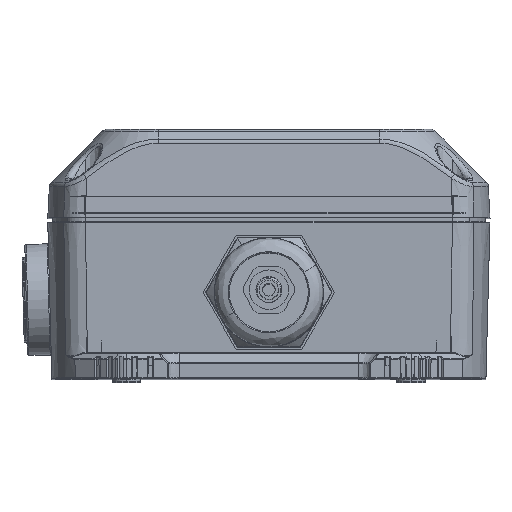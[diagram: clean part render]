
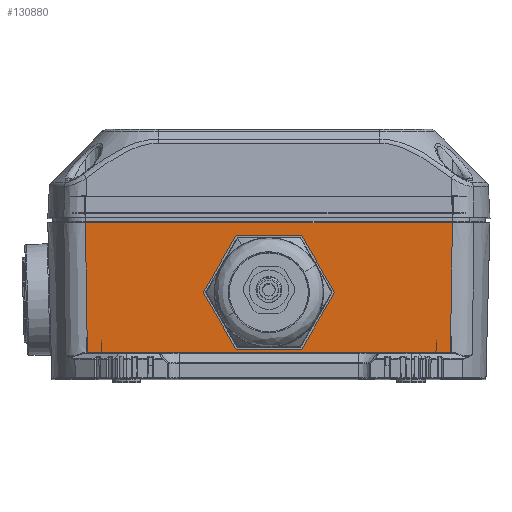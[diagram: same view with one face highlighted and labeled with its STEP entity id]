
A CAD part, top view. The second image highlights one B-rep face of the part: STEP entity #130880.
In plain terms, the highlighted planar face has unit normal (0, -0.026, 1).
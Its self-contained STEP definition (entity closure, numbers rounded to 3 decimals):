
#707 = CARTESIAN_POINT ( 'NONE',  ( -10.392, 9.25, 108.446 ) ) ;
#1425 = CARTESIAN_POINT ( 'NONE',  ( -57.745, 26.37, 108.894 ) ) ;
#3912 = EDGE_CURVE ( 'NONE', #118324, #89996, #95906, .T. ) ;
#4133 = CARTESIAN_POINT ( 'NONE',  ( -57.473, 8.308, 108.421 ) ) ;
#8199 = ORIENTED_EDGE ( 'NONE', *, *, #66824, .T. ) ;
#9946 = CARTESIAN_POINT ( 'NONE',  ( -66.645, 49.295, 109.495 ) ) ;
#11708 = DIRECTION ( 'NONE',  ( 0., -1., -0.026 ) ) ;
#16843 = CARTESIAN_POINT ( 'NONE',  ( 58.085, 49.295, 109.495 ) ) ;
#17525 = DIRECTION ( 'NONE',  ( 1., 0., 0. ) ) ;
#21920 = CARTESIAN_POINT ( 'NONE',  ( -66.645, 49.5, 109.5 ) ) ;
#22009 = VECTOR ( 'NONE', #103792, 1000. ) ;
#22887 = CARTESIAN_POINT ( 'NONE',  ( 57.473, 8.308, 108.421 ) ) ;
#23704 = CARTESIAN_POINT ( 'NONE',  ( -57.473, 8.308, 108.421 ) ) ;
#26305 = CARTESIAN_POINT ( 'NONE',  ( 10.392, 45.25, 109.389 ) ) ;
#26775 = DIRECTION ( 'NONE',  ( 0.5, -0.866, -0.023 ) ) ;
#27469 = EDGE_CURVE ( 'NONE', #28248, #31781, #112821, .T. ) ;
#28038 = CARTESIAN_POINT ( 'NONE',  ( 57.939, 39.359, 109.234 ) ) ;
#28248 = VERTEX_POINT ( 'NONE', #94555 ) ;
#28671 = EDGE_LOOP ( 'NONE', ( #42906, #8199, #89855, #129674, #116026, #50917 ) ) ;
#29660 = LINE ( 'NONE', #707, #50608 ) ;
#31781 = VERTEX_POINT ( 'NONE', #125842 ) ;
#35646 = VECTOR ( 'NONE', #74594, 1000. ) ;
#37838 = CARTESIAN_POINT ( 'NONE',  ( 57.757, 27.132, 108.914 ) ) ;
#38109 = VERTEX_POINT ( 'NONE', #72278 ) ;
#38536 = ORIENTED_EDGE ( 'NONE', *, *, #127388, .T. ) ;
#42906 = ORIENTED_EDGE ( 'NONE', *, *, #76300, .T. ) ;
#46150 = CARTESIAN_POINT ( 'NONE',  ( -58.045, 46.543, 109.423 ) ) ;
#46624 = AXIS2_PLACEMENT_3D ( 'NONE', #21920, #77450, #11708 ) ;
#47001 = VERTEX_POINT ( 'NONE', #110212 ) ;
#47885 = EDGE_CURVE ( 'NONE', #118324, #31781, #77571, .T. ) ;
#50608 = VECTOR ( 'NONE', #78539, 1000. ) ;
#50748 = EDGE_CURVE ( 'NONE', #108818, #103939, #29660, .T. ) ;
#50917 = ORIENTED_EDGE ( 'NONE', *, *, #113597, .T. ) ;
#51580 = CARTESIAN_POINT ( 'NONE',  ( -66.645, 8.308, 108.421 ) ) ;
#54050 = VECTOR ( 'NONE', #122054, 1000. ) ;
#57583 = EDGE_CURVE ( 'NONE', #47001, #108818, #93322, .T. ) ;
#65269 = CARTESIAN_POINT ( 'NONE',  ( 20.785, 27.25, 108.917 ) ) ;
#65740 = DIRECTION ( 'NONE',  ( -0.5, -0.866, -0.023 ) ) ;
#66049 = VERTEX_POINT ( 'NONE', #133342 ) ;
#66824 = EDGE_CURVE ( 'NONE', #66049, #141511, #135163, .T. ) ;
#67540 = CARTESIAN_POINT ( 'NONE',  ( -57.488, 9.302, 108.447 ) ) ;
#71650 = EDGE_LOOP ( 'NONE', ( #137229, #75157, #129140, #38536 ) ) ;
#72278 = CARTESIAN_POINT ( 'NONE',  ( -10.392, 45.25, 109.389 ) ) ;
#74594 = DIRECTION ( 'NONE',  ( 0.5, 0.866, 0.023 ) ) ;
#75157 = ORIENTED_EDGE ( 'NONE', *, *, #47885, .T. ) ;
#75716 = DIRECTION ( 'NONE',  ( -1., 0., 0. ) ) ;
#76300 = EDGE_CURVE ( 'NONE', #38109, #66049, #125231, .T. ) ;
#77450 = DIRECTION ( 'NONE',  ( 0., -0.026, 1. ) ) ;
#77571 = LINE ( 'NONE', #51580, #87948 ) ;
#78539 = DIRECTION ( 'NONE',  ( -0.5, 0.866, 0.023 ) ) ;
#79210 = CARTESIAN_POINT ( 'NONE',  ( -57.934, 39.038, 109.226 ) ) ;
#86970 = CARTESIAN_POINT ( 'NONE',  ( -66.645, 45.25, 109.389 ) ) ;
#87666 = LINE ( 'NONE', #9946, #96359 ) ;
#87948 = VECTOR ( 'NONE', #17525, 1000. ) ;
#89855 = ORIENTED_EDGE ( 'NONE', *, *, #108412, .T. ) ;
#89996 = VERTEX_POINT ( 'NONE', #121186 ) ;
#93156 = CARTESIAN_POINT ( 'NONE',  ( 58.05, 46.87, 109.431 ) ) ;
#93231 = VECTOR ( 'NONE', #65740, 1000. ) ;
#93322 = LINE ( 'NONE', #115506, #22009 ) ;
#94555 = CARTESIAN_POINT ( 'NONE',  ( 58.085, 49.295, 109.495 ) ) ;
#95906 =( BOUNDED_CURVE ( )  B_SPLINE_CURVE ( 3, ( #23704, #67540, #112289, #1425, #79210, #46150, #102522 ),
 .UNSPECIFIED., .F., .F. ) 
 B_SPLINE_CURVE_WITH_KNOTS ( ( 4, 1, 1, 1, 4 ),
 ( 0.007, 0.079, 0.453, 0.796, 0.995 ),
 .UNSPECIFIED. ) 
 CURVE ( )  GEOMETRIC_REPRESENTATION_ITEM ( )  RATIONAL_B_SPLINE_CURVE ( ( 1.072, 1.072, 1.072, 1.072, 1.072, 1.072, 1.072 ) ) 
 REPRESENTATION_ITEM ( '' )  );
#96359 = VECTOR ( 'NONE', #75716, 1000. ) ;
#99332 = CARTESIAN_POINT ( 'NONE',  ( -20.785, 27.25, 108.917 ) ) ;
#102522 = CARTESIAN_POINT ( 'NONE',  ( -58.085, 49.295, 109.495 ) ) ;
#103792 = DIRECTION ( 'NONE',  ( -1., 0., 0. ) ) ;
#103939 = VERTEX_POINT ( 'NONE', #134073 ) ;
#105896 = CARTESIAN_POINT ( 'NONE',  ( 57.588, 15.894, 108.62 ) ) ;
#107022 = FACE_OUTER_BOUND ( 'NONE', #71650, .T. ) ;
#107418 = CARTESIAN_POINT ( 'NONE',  ( -10.392, 9.25, 108.446 ) ) ;
#108412 = EDGE_CURVE ( 'NONE', #141511, #47001, #133331, .T. ) ;
#108722 = LINE ( 'NONE', #99332, #35646 ) ;
#108818 = VERTEX_POINT ( 'NONE', #107418 ) ;
#110212 = CARTESIAN_POINT ( 'NONE',  ( 10.392, 9.25, 108.446 ) ) ;
#112289 = CARTESIAN_POINT ( 'NONE',  ( -57.581, 15.46, 108.609 ) ) ;
#112821 =( BOUNDED_CURVE ( )  B_SPLINE_CURVE ( 3, ( #16843, #93156, #28038, #37838, #105896, #115632, #22887 ),
 .UNSPECIFIED., .F., .F. ) 
 B_SPLINE_CURVE_WITH_KNOTS ( ( 4, 1, 1, 1, 4 ),
 ( 0.005, 0.18, 0.548, 0.889, 0.993 ),
 .UNSPECIFIED. ) 
 CURVE ( )  GEOMETRIC_REPRESENTATION_ITEM ( )  RATIONAL_B_SPLINE_CURVE ( ( 1.072, 1.072, 1.072, 1.072, 1.072, 1.072, 1.072 ) ) 
 REPRESENTATION_ITEM ( '' )  );
#113597 = EDGE_CURVE ( 'NONE', #103939, #38109, #108722, .T. ) ;
#115506 = CARTESIAN_POINT ( 'NONE',  ( -66.645, 9.25, 108.446 ) ) ;
#115534 = CARTESIAN_POINT ( 'NONE',  ( 20.785, 27.25, 108.917 ) ) ;
#115632 = CARTESIAN_POINT ( 'NONE',  ( 57.495, 9.743, 108.459 ) ) ;
#116026 = ORIENTED_EDGE ( 'NONE', *, *, #50748, .T. ) ;
#118324 = VERTEX_POINT ( 'NONE', #4133 ) ;
#121186 = CARTESIAN_POINT ( 'NONE',  ( -58.085, 49.295, 109.495 ) ) ;
#122054 = DIRECTION ( 'NONE',  ( 1., 0., 0. ) ) ;
#125231 = LINE ( 'NONE', #86970, #54050 ) ;
#125842 = CARTESIAN_POINT ( 'NONE',  ( 57.473, 8.308, 108.421 ) ) ;
#127388 = EDGE_CURVE ( 'NONE', #28248, #89996, #87666, .T. ) ;
#129140 = ORIENTED_EDGE ( 'NONE', *, *, #27469, .F. ) ;
#129674 = ORIENTED_EDGE ( 'NONE', *, *, #57583, .T. ) ;
#130880 = ADVANCED_FACE ( 'NONE', ( #143498, #107022 ), #140587, .T. ) ;
#133331 = LINE ( 'NONE', #65269, #93231 ) ;
#133342 = CARTESIAN_POINT ( 'NONE',  ( 10.392, 45.25, 109.389 ) ) ;
#134073 = CARTESIAN_POINT ( 'NONE',  ( -20.785, 27.25, 108.917 ) ) ;
#135163 = LINE ( 'NONE', #26305, #142126 ) ;
#137229 = ORIENTED_EDGE ( 'NONE', *, *, #3912, .F. ) ;
#140587 = PLANE ( 'NONE',  #46624 ) ;
#141511 = VERTEX_POINT ( 'NONE', #115534 ) ;
#142126 = VECTOR ( 'NONE', #26775, 1000. ) ;
#143498 = FACE_BOUND ( 'NONE', #28671, .T. ) ;
